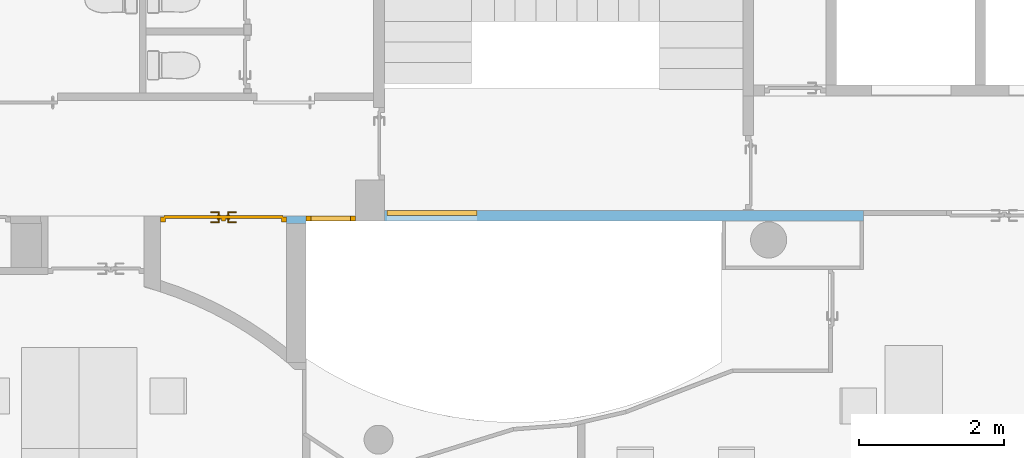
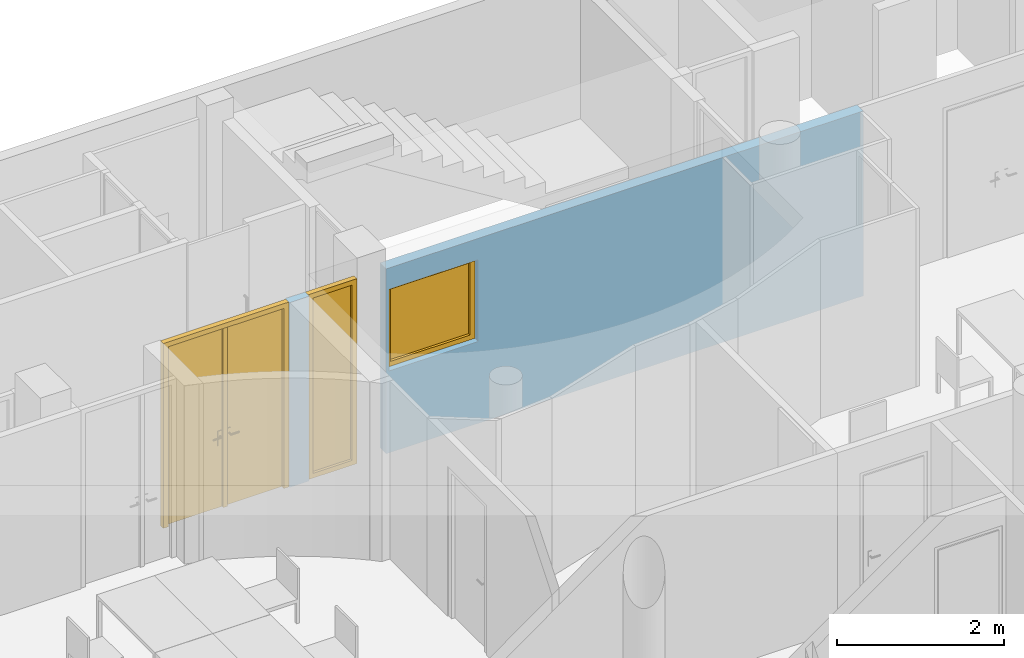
"""IFC4 building model written with IfcOpenShell, lengths in metres."""

from ifc_helpers import new_model, entity, si_unit, converted_unit, derived_unit, frame, frame_2d, origin, origin_with_axes, place, context, subcontext, project, spatial, polyline, rectangle, outline, extrude, closed_shell, open_shell, faceted_brep, surface_model, source, transform, mapped, material, layer, layer_set, layer_usage, type_object, element, fill, save


model = new_model("IFC4")

# Units and contexts
model_context = context("Model", 3, precision=1e-05, world=origin())
body_context = subcontext(model_context, "Body", "Model", "MODEL_VIEW")
ifc_project = project(units=[si_unit("LENGTHUNIT", "METRE"), si_unit("AREAUNIT", "SQUARE_METRE"), si_unit("VOLUMEUNIT", "CUBIC_METRE"), si_unit("MASSUNIT", "GRAM", prefix="KILO"), converted_unit("PLANEANGLEUNIT", "DEGREE", entity("IfcPlaneAngleMeasure", 0.0174532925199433), si_unit("PLANEANGLEUNIT", "RADIAN"), dimensions=[0, 0, 0, 0, 0, 0, 0]), derived_unit("THERMALTRANSMITTANCEUNIT", [(si_unit("POWERUNIT", "WATT"), 1), (si_unit("THERMODYNAMICTEMPERATUREUNIT", "KELVIN"), -1), (si_unit("LENGTHUNIT", "METRE"), -2)]), derived_unit("VOLUMETRICFLOWRATEUNIT", [(si_unit("LENGTHUNIT", "METRE"), 3), (converted_unit("TIMEUNIT", "hour", entity("IfcTimeMeasure", 3600.0), si_unit("TIMEUNIT", "SECOND"), dimensions=[0, 0, 1, 0, 0, 0, 0]), -1), (si_unit("LENGTHUNIT", "METRE"), -1)])], contexts=[model_context])

# Building, storeys
building_placement = place(None, origin())
building = spatial("IfcBuilding", under=ifc_project, at=building_placement, Name="HABITATGE PLURIFAMILIAR", CompositionType="ELEMENT")
storey_1_placement = place(building_placement, frame((0.0, 0.0, 9.26)))
storey_1 = spatial("IfcBuildingStorey", under=building, at=storey_1_placement, Name="PLANTA SEGONA", CompositionType="ELEMENT", Elevation=9.26)
storey_2_placement = place(storey_1_placement, frame((0.0, 0.0, 6.25)))
storey_2 = spatial("IfcBuildingStorey", under=storey_1, at=storey_2_placement, Name="NOU", CompositionType="PARTIAL")

# Wall, opening, window
ifc_material_1 = material()
ifc_layer_1 = layer(ifc_material_1, 0.15)
ifc_layer_set_1 = layer_set([ifc_layer_1])
ifc_layer_usage_1 = layer_usage(ifc_layer_set_1, "AXIS2", "POSITIVE", 0.0)
wall_1_placement = place(storey_2_placement, frame((417.446984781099, 24.3094598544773, -6.35), z_axis=(0.0, 0.0, 1.0), x_axis=(-1.0, 0.0, 0.0)))
wall_1 = element("IfcWall", 1, at=wall_1_placement, inside=storey_2, material=ifc_layer_usage_1, Name="Evans P2", context=body_context, shape_type="SweptSolid", body=[
    extrude(rectangle(XDim=6.61600031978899, YDim=0.15, at=frame_2d((3.30800015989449, 0.075), x_axis=(1.0, 0.0))), origin_with_axes(), (0.0, 0.0, 1.0), 2.71),
])
opening_1_placement = place(wall_1_placement, frame((6.58000000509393, 0.149999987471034, 1.2), z_axis=(0.0, -1.0, 0.0), x_axis=(0.0, 0.0, 1.0)))
opening_1 = element("IfcOpeningElement", 2, at=opening_1_placement, cuts=wall_1, Name="Vano de Finestra P2", ObjectType="Opening", context=body_context, shape_type="SweptSolid", body=[
    extrude(outline(polyline([(1.2, 1.24), (1.2, 0.0), (0.0, 0.0), (0.0, 1.24), (1.2, 1.24)])), origin_with_axes(), (0.0, 0.0, 1.0), 0.15),
])
shared_shape_1 = source(origin_with_axes(), body_context, "Body", "SurfaceModel", [
    surface_model("IfcShellBasedSurfaceModel", [(1.24, 0.0, 1.2), (1.24, 0.0, 0.0), (1.17, 0.0, 0.0), (1.17, 0.0, 1.2), (1.24, 0.07, 0.0), (1.24, 0.07, 1.2), (1.17, 0.07, 1.2), (1.17, 0.07, 0.0)], [closed_shell([[[0, 1, 2, 3]], [[4, 5, 6, 7]], [[1, 0, 5, 4]], [[2, 1, 4, 7]], [[3, 2, 7, 6]], [[0, 3, 6, 5]]], orient=[[False], [False], [False], [False], [False], [False]])]),
    surface_model("IfcShellBasedSurfaceModel", [(0.07, 0.0, 1.2), (0.07, 0.0, 0.0), (0.0, 0.0, 0.0), (0.0, 0.0, 1.2), (0.07, 0.07, 0.0), (0.07, 0.07, 1.2), (0.0, 0.07, 1.2), (0.0, 0.07, 0.0)], [closed_shell([[[0, 1, 2, 3]], [[4, 5, 6, 7]], [[1, 0, 5, 4]], [[2, 1, 4, 7]], [[3, 2, 7, 6]], [[0, 3, 6, 5]]], orient=[[False], [False], [False], [False], [False], [False]])]),
    surface_model("IfcShellBasedSurfaceModel", [(1.17, 0.0, 0.07), (1.17, 0.0, 0.0), (0.07, 0.0, 0.0), (0.07, 0.0, 0.07), (1.17, 0.07, 0.0), (1.17, 0.07, 0.07), (0.07, 0.07, 0.07), (0.07, 0.07, 0.0)], [closed_shell([[[0, 1, 2, 3]], [[4, 5, 6, 7]], [[1, 0, 5, 4]], [[2, 1, 4, 7]], [[3, 2, 7, 6]], [[0, 3, 6, 5]]], orient=[[False], [False], [False], [False], [False], [False]])]),
    surface_model("IfcShellBasedSurfaceModel", [(1.17, 0.0, 1.2), (1.17, 0.0, 1.13), (0.07, 0.0, 1.13), (0.07, 0.0, 1.2), (1.17, 0.07, 1.13), (1.17, 0.07, 1.2), (0.07, 0.07, 1.2), (0.07, 0.07, 1.13)], [closed_shell([[[0, 1, 2, 3]], [[4, 5, 6, 7]], [[1, 0, 5, 4]], [[2, 1, 4, 7]], [[3, 2, 7, 6]], [[0, 3, 6, 5]]], orient=[[False], [False], [False], [False], [False], [False]])]),
    surface_model("IfcShellBasedSurfaceModel", [(1.17, 0.035, 0.07), (0.07, 0.035, 0.07), (0.07, 0.035, 1.13), (1.17, 0.035, 1.13)], [open_shell([[[0, 1, 2, 3]]], orient=[[False]])]),
])
window_placement = place(opening_1_placement, frame((0.0, 1.24, 0.15), z_axis=(1.0, 0.0, 0.0), x_axis=(0.0, -1.0, 0.0)))
window = element("IfcWindow", 3, at=window_placement, inside=storey_2, Name="Finestra P2", OverallHeight=1.2, OverallWidth=1.24, PartitioningType="USERDEFINED", PredefinedType="WINDOW", context=body_context, shape_type="MappedRepresentation", body=[
    mapped(shared_shape_1, transform((0.0, 0.0, 0.0), x_axis=(1.0, 0.0, 0.0), y_axis=(0.0, 1.0, 0.0), z_axis=(0.0, 0.0, 1.0), scale=1.0)),
])
fill(opening_1, window)

# Wall, openings, doors
ifc_material_2 = material()
ifc_layer_2 = layer(ifc_material_2, 0.1)
ifc_layer_set_2 = layer_set([ifc_layer_2])
ifc_layer_usage_2 = layer_usage(ifc_layer_set_2, "AXIS2", "POSITIVE", 0.0)
wall_2_placement = place(storey_2_placement, frame((409.746984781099, 24.2294598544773, -6.35), z_axis=(0.0, 0.0, 1.0), x_axis=(-1.0, 0.0, 0.0)))
wall_2 = element("IfcWall", 4, at=wall_2_placement, inside=storey_2, material=ifc_layer_usage_2, Name="Evans P2", context=body_context, shape_type="SweptSolid", body=[
    extrude(rectangle(XDim=2.00999999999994, YDim=0.1, at=frame_2d((1.00499999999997, 0.05), x_axis=(1.0, 0.0))), origin_with_axes(), (0.0, 0.0, 1.0), 2.71),
])
opening_2_placement = place(wall_2_placement, frame((0.0, 0.0850000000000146, 0.0), z_axis=(0.0, -1.0, 0.0), x_axis=(0.0, 0.0, 1.0)))
opening_2 = element("IfcOpeningElement", 5, at=opening_2_placement, cuts=wall_2, Name="Vano puerta", ObjectType="Opening", context=body_context, shape_type="SweptSolid", body=[
    extrude(outline(polyline([(2.71, 0.681540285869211), (2.71, 0.0), (0.0, 0.0), (0.0, 0.681540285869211), (2.71, 0.681540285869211)])), origin_with_axes(), (0.0, 0.0, 1.0), 0.1),
])
opening_3_placement = place(wall_2_placement, frame((2.01140884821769, 0.1, 0.0), z_axis=(0.0, -1.0, 0.0), x_axis=(0.0, 0.0, 1.0)))
opening_3 = element("IfcOpeningElement", 6, at=opening_3_placement, cuts=wall_2, Name="Vano puerta", ObjectType="Opening", context=body_context, shape_type="SweptSolid", body=[
    extrude(outline(polyline([(2.71, 1.73983265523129), (2.71, 0.0), (0.0, 0.0), (0.0, 1.73983265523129), (2.71, 1.73983265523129)])), origin_with_axes(), (0.0, 0.0, 1.0), 0.1),
])
door_type = type_object("IfcDoorType", Name="Porta P2", OperationType="NOTDEFINED", ParameterTakesPrecedence=False, PredefinedType="DOOR")
shared_shape_2 = source(origin_with_axes(), body_context, "Body", "SurfaceModel", [
    surface_model("IfcShellBasedSurfaceModel", [(0.0, 0.0700000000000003, 2.71), (0.0, 0.07, 0.0), (0.07, 0.07, 0.0), (0.07, 0.0700000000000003, 2.71), (0.0, 0.0, 0.0), (0.0, 0.0, 2.71), (0.07, 0.0, 2.71), (0.07, 0.0, 0.0)], [closed_shell([[[0, 1, 2, 3]], [[4, 5, 6, 7]], [[1, 0, 5, 4]], [[2, 1, 4, 7]], [[3, 2, 7, 6]], [[0, 3, 6, 5]]], orient=[[False], [False], [False], [False], [False], [False]])]),
    surface_model("IfcShellBasedSurfaceModel", [(0.611540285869, 0.0700000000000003, 2.71), (0.611540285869, 0.07, 0.0), (0.681540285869, 0.07, 0.0), (0.681540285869, 0.0700000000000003, 2.71), (0.611540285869, 0.0, 0.0), (0.611540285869, 0.0, 2.71), (0.681540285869, 0.0, 2.71), (0.681540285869, 0.0, 0.0)], [closed_shell([[[0, 1, 2, 3]], [[4, 5, 6, 7]], [[1, 0, 5, 4]], [[2, 1, 4, 7]], [[3, 2, 7, 6]], [[0, 3, 6, 5]]], orient=[[False], [False], [False], [False], [False], [False]])]),
    surface_model("IfcShellBasedSurfaceModel", [(0.07, 0.07, 0.07), (0.07, 0.07, 0.0), (0.611540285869, 0.07, 0.0), (0.611540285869, 0.07, 0.07), (0.07, 0.0, 0.0), (0.07, 0.0, 0.07), (0.611540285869, 0.0, 0.07), (0.611540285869, 0.0, 0.0)], [closed_shell([[[0, 1, 2, 3]], [[4, 5, 6, 7]], [[1, 0, 5, 4]], [[2, 1, 4, 7]], [[3, 2, 7, 6]], [[0, 3, 6, 5]]], orient=[[False], [False], [False], [False], [False], [False]])]),
    surface_model("IfcShellBasedSurfaceModel", [(0.07, 0.0700000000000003, 2.71), (0.07, 0.0700000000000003, 2.64), (0.611540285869, 0.0700000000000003, 2.64), (0.611540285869, 0.0700000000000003, 2.71), (0.07, 0.0, 2.64), (0.07, 0.0, 2.71), (0.611540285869, 0.0, 2.71), (0.611540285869, 0.0, 2.64)], [closed_shell([[[0, 1, 2, 3]], [[4, 5, 6, 7]], [[1, 0, 5, 4]], [[2, 1, 4, 7]], [[3, 2, 7, 6]], [[0, 3, 6, 5]]], orient=[[False], [False], [False], [False], [False], [False]])]),
    surface_model("IfcShellBasedSurfaceModel", [(0.07, 0.035, 0.07), (0.611540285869, 0.035, 0.07), (0.611540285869, 0.0350000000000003, 2.64), (0.07, 0.0350000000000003, 2.64)], [open_shell([[[0, 1, 2, 3]]], orient=[[False]])]),
])
door_1_placement = place(opening_2_placement, frame((0.0, 0.681540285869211, 0.015), z_axis=(1.0, 0.0, 0.0), x_axis=(0.0, -1.00000000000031, 0.0)))
door_1 = element("IfcDoor", 7, at=door_1_placement, inside=storey_2, type_object=door_type, Name="Porta P2", OverallHeight=2.71, OverallWidth=0.68154, context=body_context, shape_type="MappedRepresentation", body=[
    mapped(shared_shape_2, transform((0.0, 0.0, 0.0), x_axis=(1.0, 0.0, 0.0), y_axis=(0.0, -1.0, 0.0), z_axis=(0.0, 0.0, 1.0), scale=1.00000000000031)),
])
fill(opening_2, door_1)
shared_shape_3 = source(origin_with_axes(), body_context, "Body", "Brep", [
    faceted_brep([(0.0, 0.07, 2.71), (0.0, 0.07, 0.0), (0.07, 0.07, 0.0), (0.07, 0.07, 2.71), (0.0, 0.0, 0.0), (0.0, 0.0, 2.71), (0.07, 0.0, 2.71), (0.07, 0.0, 0.0)], [[[0, 1, 2, 3]], [[4, 5, 6, 7]], [[1, 0, 5, 4]], [[2, 1, 4, 7]], [[3, 2, 7, 6]], [[0, 3, 6, 5]]], orient=[[False], [False], [False], [False], [False], [False]]),
    faceted_brep([(1.66983265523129, 0.07, 2.71), (1.66983265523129, 0.07, 0.0), (1.73983265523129, 0.07, 0.0), (1.73983265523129, 0.07, 2.71), (1.66983265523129, 0.0, 0.0), (1.66983265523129, 0.0, 2.71), (1.73983265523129, 0.0, 2.71), (1.73983265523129, 0.0, 0.0)], [[[0, 1, 2, 3]], [[4, 5, 6, 7]], [[1, 0, 5, 4]], [[2, 1, 4, 7]], [[3, 2, 7, 6]], [[0, 3, 6, 5]]], orient=[[False], [False], [False], [False], [False], [False]]),
    faceted_brep([(0.07, 0.07, 2.71), (0.07, 0.07, 2.64), (1.66983265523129, 0.07, 2.64), (1.66983265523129, 0.07, 2.71), (0.07, 0.0, 2.64), (0.07, 0.0, 2.71), (1.66983265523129, 0.0, 2.71), (1.66983265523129, 0.0, 2.64)], [[[0, 1, 2, 3]], [[4, 5, 6, 7]], [[1, 0, 5, 4]], [[2, 1, 4, 7]], [[3, 2, 7, 6]], [[0, 3, 6, 5]]], orient=[[False], [False], [False], [False], [False], [False]]),
    faceted_brep([(0.05, 0.09, 2.66), (0.05, 0.09, 0.0), (0.869416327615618, 0.09, 0.0), (0.869416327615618, 0.09, 2.66), (0.05, 0.05, 0.0), (0.05, 0.05, 2.66), (0.869416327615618, 0.05, 2.66), (0.869416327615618, 0.05, 0.0)], [[[0, 1, 2, 3]], [[4, 5, 6, 7]], [[1, 0, 5, 4]], [[2, 1, 4, 7]], [[3, 2, 7, 6]], [[0, 3, 6, 5]]], orient=[[False], [False], [False], [False], [False], [False]]),
    faceted_brep([(0.839416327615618, 0.05, 2.64), (0.839416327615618, 0.05, 0.0), (0.899416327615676, 0.05, 0.0), (0.899416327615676, 0.05, 2.64), (0.839416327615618, 0.02, 0.0), (0.839416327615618, 0.02, 2.64), (0.899416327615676, 0.02, 2.64), (0.899416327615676, 0.02, 0.0)], [[[0, 1, 2, 3]], [[4, 5, 6, 7]], [[1, 0, 5, 4]], [[2, 1, 4, 7]], [[3, 2, 7, 6]], [[0, 3, 6, 5]]], orient=[[False], [False], [False], [False], [False], [False]]),
    faceted_brep([(0.779416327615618, 0.05, 1.125), (0.779416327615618, 0.05, 0.91), (0.829416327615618, 0.05, 0.91), (0.829416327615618, 0.05, 1.125), (0.779416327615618, 0.04, 0.91), (0.779416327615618, 0.04, 1.125), (0.829416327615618, 0.04, 1.125), (0.829416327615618, 0.04, 0.91)], [[[0, 1, 2, 3]], [[4, 5, 6, 7]], [[1, 0, 5, 4]], [[2, 1, 4, 7]], [[3, 2, 7, 6]], [[0, 3, 6, 5]]], orient=[[False], [False], [False], [False], [False], [False]]),
    faceted_brep([(0.804416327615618, 0.04, 1.06), (0.799416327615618, 0.04, 1.05866025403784), (0.795756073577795, 0.04, 1.055), (0.794416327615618, 0.04, 1.05), (0.795756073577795, 0.04, 1.045), (0.799416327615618, 0.04, 1.04133974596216), (0.804416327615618, 0.04, 1.04), (0.809416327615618, 0.04, 1.04133974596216), (0.813076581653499, 0.04, 1.045), (0.814416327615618, 0.04, 1.05), (0.813076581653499, 0.04, 1.055), (0.809416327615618, 0.04, 1.05866025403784), (0.809416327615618, -0.005, 1.05866025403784), (0.804416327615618, 0.0, 1.06), (0.813076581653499, -0.00866025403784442, 1.055), (0.814416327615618, -0.01, 1.05), (0.813076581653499, -0.00866025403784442, 1.045), (0.809416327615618, -0.005, 1.04133974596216), (0.804416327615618, 0.0, 1.04), (0.799416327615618, 0.005, 1.04133974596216), (0.795756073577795, 0.00866025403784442, 1.045), (0.794416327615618, 0.01, 1.05), (0.795756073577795, 0.00866025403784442, 1.055), (0.799416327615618, 0.005, 1.05866025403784), (0.689416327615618, 0.0, 1.06), (0.689416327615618, -0.005, 1.05866025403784), (0.689416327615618, -0.00866025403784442, 1.055), (0.689416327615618, -0.01, 1.05), (0.689416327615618, -0.00866025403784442, 1.045), (0.689416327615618, -0.005, 1.04133974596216), (0.689416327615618, 0.0, 1.04), (0.689416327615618, 0.005, 1.04133974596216), (0.689416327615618, 0.00866025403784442, 1.045), (0.689416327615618, 0.01, 1.05), (0.689416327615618, 0.00866025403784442, 1.055), (0.689416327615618, 0.005, 1.05866025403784)], [[[0, 1, 2, 3, 4, 5, 6, 7, 8, 9, 10, 11]], [[0, 11, 12, 13]], [[11, 10, 14, 12]], [[10, 9, 15, 14]], [[9, 8, 16, 15]], [[8, 7, 17, 16]], [[7, 6, 18, 17]], [[6, 5, 19, 18]], [[5, 4, 20, 19]], [[4, 3, 21, 20]], [[3, 2, 22, 21]], [[2, 1, 23, 22]], [[1, 0, 13, 23]], [[24, 25, 26, 27, 28, 29, 30, 31, 32, 33, 34, 35]], [[13, 12, 25, 24]], [[12, 14, 26, 25]], [[14, 15, 27, 26]], [[15, 16, 28, 27]], [[16, 17, 29, 28]], [[17, 18, 30, 29]], [[18, 19, 31, 30]], [[19, 20, 32, 31]], [[20, 21, 33, 32]], [[21, 22, 34, 33]], [[22, 23, 35, 34]], [[23, 13, 24, 35]]], orient=[[False], [False], [False], [False], [False], [False], [False], [False], [False], [False], [False], [False], [False], [False], [False], [False], [False], [False], [False], [False], [False], [False], [False], [False], [False], [False]]),
    faceted_brep([(0.779416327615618, 0.09, 1.125), (0.829416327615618, 0.09, 1.125), (0.829416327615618, 0.09, 0.91), (0.779416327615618, 0.09, 0.91), (0.779416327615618, 0.1, 0.91), (0.829416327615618, 0.1, 0.91), (0.829416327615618, 0.1, 1.125), (0.779416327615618, 0.1, 1.125)], [[[0, 1, 2, 3]], [[4, 5, 6, 7]], [[3, 4, 7, 0]], [[2, 5, 4, 3]], [[1, 6, 5, 2]], [[0, 7, 6, 1]]], orient=[[False], [False], [False], [False], [False], [False]]),
    faceted_brep([(0.804416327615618, 0.1, 1.06), (0.809416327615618, 0.1, 1.05866025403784), (0.813076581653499, 0.1, 1.055), (0.814416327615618, 0.1, 1.05), (0.813076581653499, 0.1, 1.045), (0.809416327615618, 0.1, 1.04133974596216), (0.804416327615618, 0.1, 1.04), (0.799416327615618, 0.1, 1.04133974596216), (0.795756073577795, 0.1, 1.045), (0.794416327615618, 0.1, 1.05), (0.795756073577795, 0.1, 1.055), (0.799416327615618, 0.1, 1.05866025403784), (0.804416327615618, 0.14, 1.06), (0.809416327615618, 0.145, 1.05866025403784), (0.813076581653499, 0.148660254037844, 1.055), (0.814416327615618, 0.15, 1.05), (0.813076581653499, 0.148660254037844, 1.045), (0.809416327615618, 0.145, 1.04133974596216), (0.804416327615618, 0.14, 1.04), (0.799416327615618, 0.135, 1.04133974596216), (0.795756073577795, 0.131339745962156, 1.045), (0.794416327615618, 0.13, 1.05), (0.795756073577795, 0.131339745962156, 1.055), (0.799416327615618, 0.135, 1.05866025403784), (0.689416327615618, 0.14, 1.06), (0.689416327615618, 0.135, 1.05866025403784), (0.689416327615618, 0.131339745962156, 1.055), (0.689416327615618, 0.13, 1.05), (0.689416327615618, 0.131339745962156, 1.045), (0.689416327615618, 0.135, 1.04133974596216), (0.689416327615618, 0.14, 1.04), (0.689416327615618, 0.145, 1.04133974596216), (0.689416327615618, 0.148660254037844, 1.045), (0.689416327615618, 0.15, 1.05), (0.689416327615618, 0.148660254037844, 1.055), (0.689416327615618, 0.145, 1.05866025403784)], [[[0, 1, 2, 3, 4, 5, 6, 7, 8, 9, 10, 11]], [[0, 12, 13, 1]], [[1, 13, 14, 2]], [[2, 14, 15, 3]], [[3, 15, 16, 4]], [[4, 16, 17, 5]], [[5, 17, 18, 6]], [[6, 18, 19, 7]], [[7, 19, 20, 8]], [[8, 20, 21, 9]], [[9, 21, 22, 10]], [[10, 22, 23, 11]], [[11, 23, 12, 0]], [[24, 25, 26, 27, 28, 29, 30, 31, 32, 33, 34, 35]], [[12, 24, 35, 13]], [[13, 35, 34, 14]], [[14, 34, 33, 15]], [[15, 33, 32, 16]], [[16, 32, 31, 17]], [[17, 31, 30, 18]], [[18, 30, 29, 19]], [[19, 29, 28, 20]], [[20, 28, 27, 21]], [[21, 27, 26, 22]], [[22, 26, 25, 23]], [[23, 25, 24, 12]]], orient=[[False], [False], [False], [False], [False], [False], [False], [False], [False], [False], [False], [False], [False], [False], [False], [False], [False], [False], [False], [False], [False], [False], [False], [False], [False], [False]]),
    faceted_brep([(0.870416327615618, 0.09, 2.66), (0.870416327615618, 0.09, 0.0), (1.68983265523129, 0.09, 0.0), (1.68983265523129, 0.09, 2.66), (0.870416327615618, 0.05, 0.0), (0.870416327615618, 0.05, 2.66), (1.68983265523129, 0.05, 2.66), (1.68983265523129, 0.05, 0.0)], [[[0, 1, 2, 3]], [[4, 5, 6, 7]], [[1, 0, 5, 4]], [[2, 1, 4, 7]], [[3, 2, 7, 6]], [[0, 3, 6, 5]]], orient=[[False], [False], [False], [False], [False], [False]]),
    faceted_brep([(0.910416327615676, 0.05, 1.125), (0.910416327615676, 0.05, 0.91), (0.960416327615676, 0.05, 0.91), (0.960416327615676, 0.05, 1.125), (0.910416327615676, 0.04, 0.91), (0.910416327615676, 0.04, 1.125), (0.960416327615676, 0.04, 1.125), (0.960416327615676, 0.04, 0.91)], [[[0, 1, 2, 3]], [[4, 5, 6, 7]], [[1, 0, 5, 4]], [[2, 1, 4, 7]], [[3, 2, 7, 6]], [[0, 3, 6, 5]]], orient=[[False], [False], [False], [False], [False], [False]]),
    faceted_brep([(0.935416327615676, 0.04, 1.06), (0.930416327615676, 0.04, 1.05866025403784), (0.926756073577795, 0.04, 1.055), (0.925416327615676, 0.04, 1.05), (0.926756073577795, 0.04, 1.045), (0.930416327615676, 0.04, 1.04133974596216), (0.935416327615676, 0.04, 1.04), (0.940416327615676, 0.04, 1.04133974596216), (0.944076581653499, 0.04, 1.045), (0.945416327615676, 0.04, 1.05), (0.944076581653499, 0.04, 1.055), (0.940416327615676, 0.04, 1.05866025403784), (0.935416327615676, 0.0, 1.06), (0.930416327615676, -0.005, 1.05866025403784), (0.926756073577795, -0.00866025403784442, 1.055), (0.925416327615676, -0.01, 1.05), (0.926756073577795, -0.00866025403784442, 1.045), (0.930416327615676, -0.005, 1.04133974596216), (0.935416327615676, 0.0, 1.04), (0.940416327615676, 0.005, 1.04133974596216), (0.944076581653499, 0.00866025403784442, 1.045), (0.945416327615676, 0.01, 1.05), (0.944076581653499, 0.00866025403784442, 1.055), (0.940416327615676, 0.005, 1.05866025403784), (1.05041632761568, 0.0, 1.06), (1.05041632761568, 0.005, 1.05866025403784), (1.05041632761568, 0.00866025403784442, 1.055), (1.05041632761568, 0.01, 1.05), (1.05041632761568, 0.00866025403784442, 1.045), (1.05041632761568, 0.005, 1.04133974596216), (1.05041632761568, 0.0, 1.04), (1.05041632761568, -0.005, 1.04133974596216), (1.05041632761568, -0.00866025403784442, 1.045), (1.05041632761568, -0.01, 1.05), (1.05041632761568, -0.00866025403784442, 1.055), (1.05041632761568, -0.005, 1.05866025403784)], [[[0, 1, 2, 3, 4, 5, 6, 7, 8, 9, 10, 11]], [[0, 12, 13, 1]], [[1, 13, 14, 2]], [[2, 14, 15, 3]], [[3, 15, 16, 4]], [[4, 16, 17, 5]], [[5, 17, 18, 6]], [[6, 18, 19, 7]], [[7, 19, 20, 8]], [[8, 20, 21, 9]], [[9, 21, 22, 10]], [[10, 22, 23, 11]], [[11, 23, 12, 0]], [[24, 25, 26, 27, 28, 29, 30, 31, 32, 33, 34, 35]], [[12, 24, 35, 13]], [[13, 35, 34, 14]], [[14, 34, 33, 15]], [[15, 33, 32, 16]], [[16, 32, 31, 17]], [[17, 31, 30, 18]], [[18, 30, 29, 19]], [[19, 29, 28, 20]], [[20, 28, 27, 21]], [[21, 27, 26, 22]], [[22, 26, 25, 23]], [[23, 25, 24, 12]]], orient=[[False], [False], [False], [False], [False], [False], [False], [False], [False], [False], [False], [False], [False], [False], [False], [False], [False], [False], [False], [False], [False], [False], [False], [False], [False], [False]]),
    faceted_brep([(0.910416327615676, 0.09, 1.125), (0.960416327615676, 0.09, 1.125), (0.960416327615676, 0.09, 0.91), (0.910416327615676, 0.09, 0.91), (0.910416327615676, 0.1, 0.91), (0.960416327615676, 0.1, 0.91), (0.960416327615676, 0.1, 1.125), (0.910416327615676, 0.1, 1.125)], [[[0, 1, 2, 3]], [[4, 5, 6, 7]], [[3, 4, 7, 0]], [[2, 5, 4, 3]], [[1, 6, 5, 2]], [[0, 7, 6, 1]]], orient=[[False], [False], [False], [False], [False], [False]]),
    faceted_brep([(0.935416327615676, 0.1, 1.06), (0.940416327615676, 0.1, 1.05866025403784), (0.944076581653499, 0.1, 1.055), (0.945416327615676, 0.1, 1.05), (0.944076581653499, 0.1, 1.045), (0.940416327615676, 0.1, 1.04133974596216), (0.935416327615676, 0.1, 1.04), (0.930416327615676, 0.1, 1.04133974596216), (0.926756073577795, 0.1, 1.045), (0.925416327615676, 0.1, 1.05), (0.926756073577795, 0.1, 1.055), (0.930416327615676, 0.1, 1.05866025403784), (0.930416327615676, 0.145, 1.05866025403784), (0.935416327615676, 0.14, 1.06), (0.926756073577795, 0.148660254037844, 1.055), (0.925416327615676, 0.15, 1.05), (0.926756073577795, 0.148660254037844, 1.045), (0.930416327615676, 0.145, 1.04133974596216), (0.935416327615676, 0.14, 1.04), (0.940416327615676, 0.135, 1.04133974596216), (0.944076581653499, 0.131339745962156, 1.045), (0.945416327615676, 0.13, 1.05), (0.944076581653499, 0.131339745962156, 1.055), (0.940416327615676, 0.135, 1.05866025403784), (1.05041632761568, 0.14, 1.06), (1.05041632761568, 0.145, 1.05866025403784), (1.05041632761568, 0.148660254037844, 1.055), (1.05041632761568, 0.15, 1.05), (1.05041632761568, 0.148660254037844, 1.045), (1.05041632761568, 0.145, 1.04133974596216), (1.05041632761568, 0.14, 1.04), (1.05041632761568, 0.135, 1.04133974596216), (1.05041632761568, 0.131339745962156, 1.045), (1.05041632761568, 0.13, 1.05), (1.05041632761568, 0.131339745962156, 1.055), (1.05041632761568, 0.135, 1.05866025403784)], [[[0, 1, 2, 3, 4, 5, 6, 7, 8, 9, 10, 11]], [[0, 11, 12, 13]], [[11, 10, 14, 12]], [[10, 9, 15, 14]], [[9, 8, 16, 15]], [[8, 7, 17, 16]], [[7, 6, 18, 17]], [[6, 5, 19, 18]], [[5, 4, 20, 19]], [[4, 3, 21, 20]], [[3, 2, 22, 21]], [[2, 1, 23, 22]], [[1, 0, 13, 23]], [[24, 25, 26, 27, 28, 29, 30, 31, 32, 33, 34, 35]], [[13, 12, 25, 24]], [[12, 14, 26, 25]], [[14, 15, 27, 26]], [[15, 16, 28, 27]], [[16, 17, 29, 28]], [[17, 18, 30, 29]], [[18, 19, 31, 30]], [[19, 20, 32, 31]], [[20, 21, 33, 32]], [[21, 22, 34, 33]], [[22, 23, 35, 34]], [[23, 13, 24, 35]]], orient=[[False], [False], [False], [False], [False], [False], [False], [False], [False], [False], [False], [False], [False], [False], [False], [False], [False], [False], [False], [False], [False], [False], [False], [False], [False], [False]]),
])
door_2_placement = place(opening_3_placement, frame((0.0, 0.0, 0.015), z_axis=(1.0, 0.0, 0.0), x_axis=(0.0, 1.0, 0.0)))
door_2 = element("IfcDoor", 8, at=door_2_placement, inside=storey_2, Name="Porta P2", OperationType="USERDEFINED", OverallHeight=2.71, OverallWidth=1.73983, PredefinedType="DOOR", context=body_context, shape_type="MappedRepresentation", body=[
    mapped(shared_shape_3, transform((0.0, 0.0, 0.0), x_axis=(1.0, 0.0, 0.0), y_axis=(0.0, 1.0, 0.0), z_axis=(0.0, 0.0, 1.0), scale=1.0)),
])
fill(opening_3, door_2)

save(model, "model.ifc")
